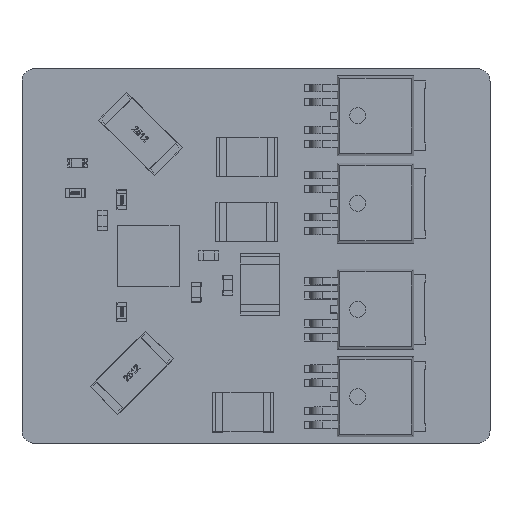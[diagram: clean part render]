
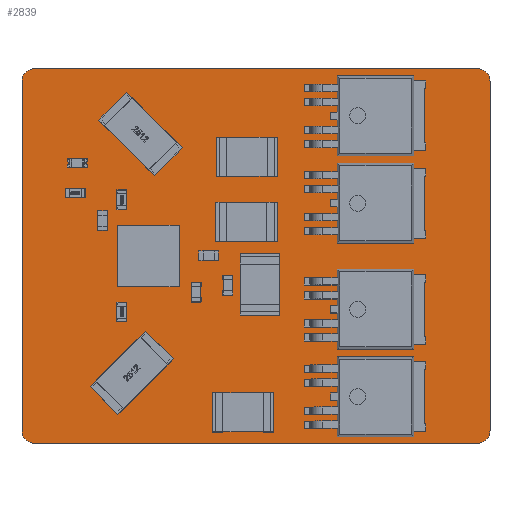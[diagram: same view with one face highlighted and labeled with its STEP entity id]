
A CAD part, top view. The second image highlights one B-rep face of the part: STEP entity #2839.
In plain terms, the highlighted planar face has unit normal (0, 0, 1).
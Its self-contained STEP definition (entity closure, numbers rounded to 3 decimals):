
#2574 = VERTEX_POINT('',#2575);
#2575 = CARTESIAN_POINT('',(-36.83,-28.21,0.));
#2581 = EDGE_CURVE('',#2574,#2582,#2584,.T.);
#2582 = VERTEX_POINT('',#2583);
#2583 = CARTESIAN_POINT('',(-36.83,0.27,0.));
#2584 = LINE('',#2585,#2586);
#2585 = CARTESIAN_POINT('',(-36.83,-28.21,0.));
#2586 = VECTOR('',#2587,1.);
#2587 = DIRECTION('',(0.,1.,0.));
#2612 = EDGE_CURVE('',#2582,#2613,#2615,.T.);
#2613 = VERTEX_POINT('',#2614);
#2614 = CARTESIAN_POINT('',(-35.83,1.27,0.));
#2615 = CIRCLE('',#2616,1.);
#2616 = AXIS2_PLACEMENT_3D('',#2617,#2618,#2619);
#2617 = CARTESIAN_POINT('',(-35.83,0.27,0.));
#2618 = DIRECTION('',(0.,0.,-1.));
#2619 = DIRECTION('',(-1.,0.,0.));
#2645 = EDGE_CURVE('',#2613,#2646,#2648,.T.);
#2646 = VERTEX_POINT('',#2647);
#2647 = CARTESIAN_POINT('',(0.27,1.27,0.));
#2648 = LINE('',#2649,#2650);
#2649 = CARTESIAN_POINT('',(-35.83,1.27,0.));
#2650 = VECTOR('',#2651,1.);
#2651 = DIRECTION('',(1.,0.,0.));
#2676 = EDGE_CURVE('',#2646,#2677,#2679,.T.);
#2677 = VERTEX_POINT('',#2678);
#2678 = CARTESIAN_POINT('',(1.27,0.27,0.));
#2679 = CIRCLE('',#2680,1.);
#2680 = AXIS2_PLACEMENT_3D('',#2681,#2682,#2683);
#2681 = CARTESIAN_POINT('',(0.27,0.27,0.));
#2682 = DIRECTION('',(0.,0.,-1.));
#2683 = DIRECTION('',(0.,1.,0.));
#2709 = EDGE_CURVE('',#2677,#2710,#2712,.T.);
#2710 = VERTEX_POINT('',#2711);
#2711 = CARTESIAN_POINT('',(1.27,-28.21,0.));
#2712 = LINE('',#2713,#2714);
#2713 = CARTESIAN_POINT('',(1.27,0.27,0.));
#2714 = VECTOR('',#2715,1.);
#2715 = DIRECTION('',(0.,-1.,0.));
#2740 = EDGE_CURVE('',#2710,#2741,#2743,.T.);
#2741 = VERTEX_POINT('',#2742);
#2742 = CARTESIAN_POINT('',(0.27,-29.21,0.));
#2743 = CIRCLE('',#2744,1.);
#2744 = AXIS2_PLACEMENT_3D('',#2745,#2746,#2747);
#2745 = CARTESIAN_POINT('',(0.27,-28.21,0.));
#2746 = DIRECTION('',(0.,0.,-1.));
#2747 = DIRECTION('',(1.,0.,0.));
#2773 = EDGE_CURVE('',#2741,#2774,#2776,.T.);
#2774 = VERTEX_POINT('',#2775);
#2775 = CARTESIAN_POINT('',(-35.83,-29.21,0.));
#2776 = LINE('',#2777,#2778);
#2777 = CARTESIAN_POINT('',(0.27,-29.21,0.));
#2778 = VECTOR('',#2779,1.);
#2779 = DIRECTION('',(-1.,0.,0.));
#2804 = EDGE_CURVE('',#2774,#2574,#2805,.T.);
#2805 = CIRCLE('',#2806,1.);
#2806 = AXIS2_PLACEMENT_3D('',#2807,#2808,#2809);
#2807 = CARTESIAN_POINT('',(-35.83,-28.21,0.));
#2808 = DIRECTION('',(0.,0.,-1.));
#2809 = DIRECTION('',(0.,-1.,0.));
#2839 = ADVANCED_FACE('',(#2840),#2850,.T.);
#2840 = FACE_BOUND('',#2841,.F.);
#2841 = EDGE_LOOP('',(#2842,#2843,#2844,#2845,#2846,#2847,#2848,#2849));
#2842 = ORIENTED_EDGE('',*,*,#2581,.T.);
#2843 = ORIENTED_EDGE('',*,*,#2612,.T.);
#2844 = ORIENTED_EDGE('',*,*,#2645,.T.);
#2845 = ORIENTED_EDGE('',*,*,#2676,.T.);
#2846 = ORIENTED_EDGE('',*,*,#2709,.T.);
#2847 = ORIENTED_EDGE('',*,*,#2740,.T.);
#2848 = ORIENTED_EDGE('',*,*,#2773,.T.);
#2849 = ORIENTED_EDGE('',*,*,#2804,.T.);
#2850 = PLANE('',#2851);
#2851 = AXIS2_PLACEMENT_3D('',#2852,#2853,#2854);
#2852 = CARTESIAN_POINT('',(-36.83,-28.21,0.));
#2853 = DIRECTION('',(0.,0.,1.));
#2854 = DIRECTION('',(1.,0.,0.));
